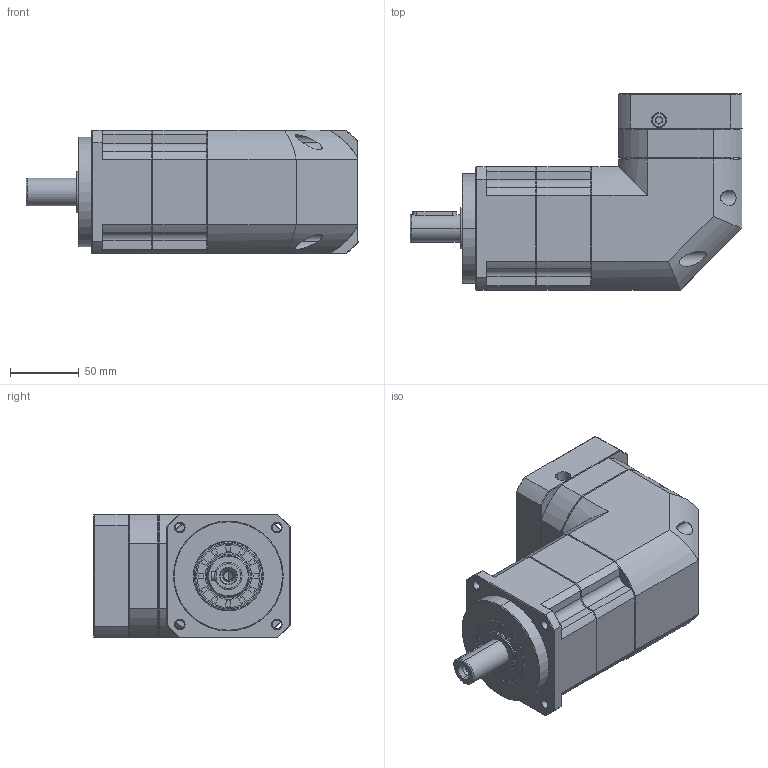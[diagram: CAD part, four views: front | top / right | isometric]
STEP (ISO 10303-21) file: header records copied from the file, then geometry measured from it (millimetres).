
FILE_DESCRIPTION (( 'STEP AP214' ), '1' );
FILE_NAME ('ZPBR090-D20-L2-P1-16-80-100-M6.step', '2024-06-07T18:30:51', ( 'Windows 蚚誧' ), ( 'Organization' ), 'SwSTEP 2.0', 'SolidWorks 2016', '' );
FILE_SCHEMA (( 'AUTOMOTIVE_DESIGN' ));
Length unit declared in the file: millimetre
Products named in the file (1): ZPBR090-D20-L2-P1-16-80-100-M6
Bounding box: 242 x 143 x 90 mm (x, y, z)
Surface area: 133663.3 mm2 (no closed solid volume)
Topology: 0 solids, 34 shells, 1895 faces, 5001 edges, 3190 vertices
Faces by surface type: plane 1012, bspline 373, cone 264, cylinder 229, torus 17
Full cylindrical faces by diameter (mm): 6.72 x1
Entity records: 93687 total; most frequent: CARTESIAN_POINT 45996, ORIENTED_EDGE 9952, DIRECTION 7806, EDGE_CURVE 4996, LINE 3312, VECTOR 3312, VERTEX_POINT 3188, AXIS2_PLACEMENT_3D 2247
